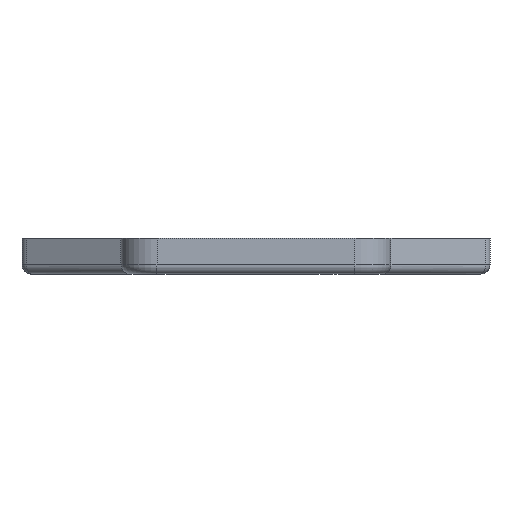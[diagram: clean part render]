
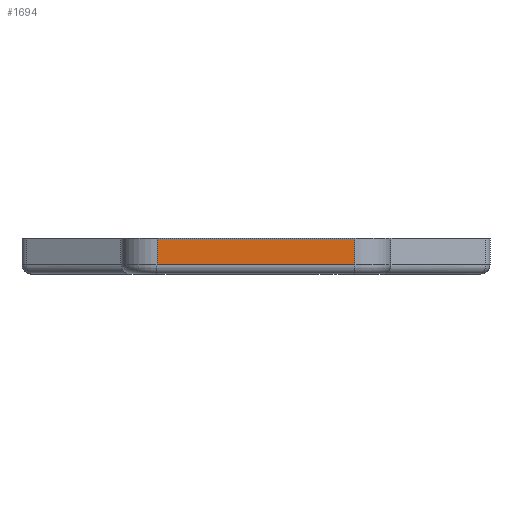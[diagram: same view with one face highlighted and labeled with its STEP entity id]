
A CAD part, front view. The second image highlights one B-rep face of the part: STEP entity #1694.
In plain terms, the highlighted planar face has unit normal (0, -1, 0).
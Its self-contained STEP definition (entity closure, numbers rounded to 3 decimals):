
#214=DIRECTION('',(-1.,0.,0.));
#215=VECTOR('',#214,11.);
#216=CARTESIAN_POINT('',(5.5,-56.7,1.));
#217=LINE('',#216,#215);
#474=DIRECTION('',(0.,0.,1.));
#475=VECTOR('',#474,1.5);
#476=CARTESIAN_POINT('',(5.5,-56.7,-0.5));
#477=LINE('',#476,#475);
#478=DIRECTION('',(1.,0.,0.));
#479=VECTOR('',#478,11.);
#480=CARTESIAN_POINT('',(-5.5,-56.7,-0.5));
#481=LINE('',#480,#479);
#482=DIRECTION('',(0.,0.,1.));
#483=VECTOR('',#482,1.5);
#484=CARTESIAN_POINT('',(-5.5,-56.7,-0.5));
#485=LINE('',#484,#483);
#1145=CARTESIAN_POINT('',(5.5,-56.7,1.));
#1147=VERTEX_POINT('',#1145);
#1150=CARTESIAN_POINT('',(-5.5,-56.7,1.));
#1152=VERTEX_POINT('',#1150);
#1155=CARTESIAN_POINT('',(5.5,-56.7,-0.5));
#1156=VERTEX_POINT('',#1155);
#1157=CARTESIAN_POINT('',(-5.5,-56.7,-0.5));
#1158=VERTEX_POINT('',#1157);
#1681=CARTESIAN_POINT('',(7.5,-56.7,-1.));
#1682=DIRECTION('',(0.,-1.,0.));
#1683=DIRECTION('',(-1.,0.,0.));
#1684=AXIS2_PLACEMENT_3D('',#1681,#1682,#1683);
#1685=PLANE('',#1684);
#1686=ORIENTED_EDGE('',*,*,#1675,.F.);
#1688=ORIENTED_EDGE('',*,*,#1687,.F.);
#1690=ORIENTED_EDGE('',*,*,#1689,.T.);
#1691=ORIENTED_EDGE('',*,*,#1355,.F.);
#1692=EDGE_LOOP('',(#1686,#1688,#1690,#1691));
#1693=FACE_OUTER_BOUND('',#1692,.F.);
#1355=EDGE_CURVE('',#1147,#1152,#217,.T.);
#1675=EDGE_CURVE('',#1156,#1147,#477,.T.);
#1687=EDGE_CURVE('',#1158,#1156,#481,.T.);
#1689=EDGE_CURVE('',#1158,#1152,#485,.T.);
#1694=ADVANCED_FACE('',(#1693),#1685,.T.);
